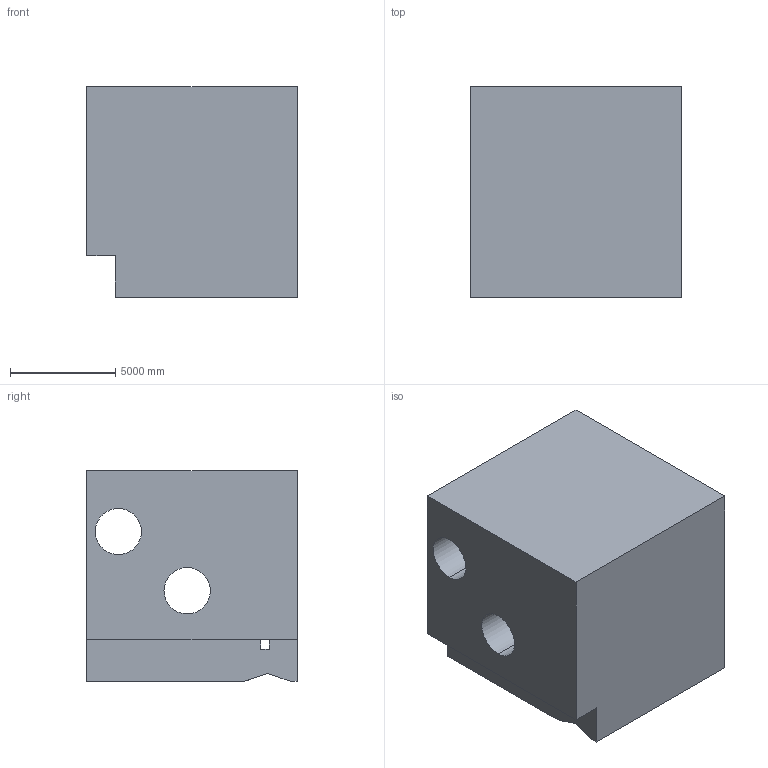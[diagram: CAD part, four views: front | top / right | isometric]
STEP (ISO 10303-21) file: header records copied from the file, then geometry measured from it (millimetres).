
FILE_DESCRIPTION (( 'STEP AP203' ), '1' );
FILE_NAME ('89.STEP', '2022-09-01T12:05:43', ( 'user' ), ( '' ), 'SwSTEP 2.0', 'SolidWorks 2021', '' );
FILE_SCHEMA (( 'CONFIG_CONTROL_DESIGN' ));
Length unit declared in the file: centimetre
Products named in the file (1): 89
Bounding box: 10000 x 10000 x 10000 mm (x, y, z)
Volume: 858785154520.2 mm3; surface area: 793064954.9 mm2
Topology: 1 solids, 1 shells, 49 faces, 150 edges, 100 vertices
Faces by surface type: plane 43, cylinder 6
Entity records: 1749 total; most frequent: ORIENTED_EDGE 300, CARTESIAN_POINT 300, DIRECTION 262, EDGE_CURVE 150, LINE 138, VECTOR 138, VERTEX_POINT 100, AXIS2_PLACEMENT_3D 62
